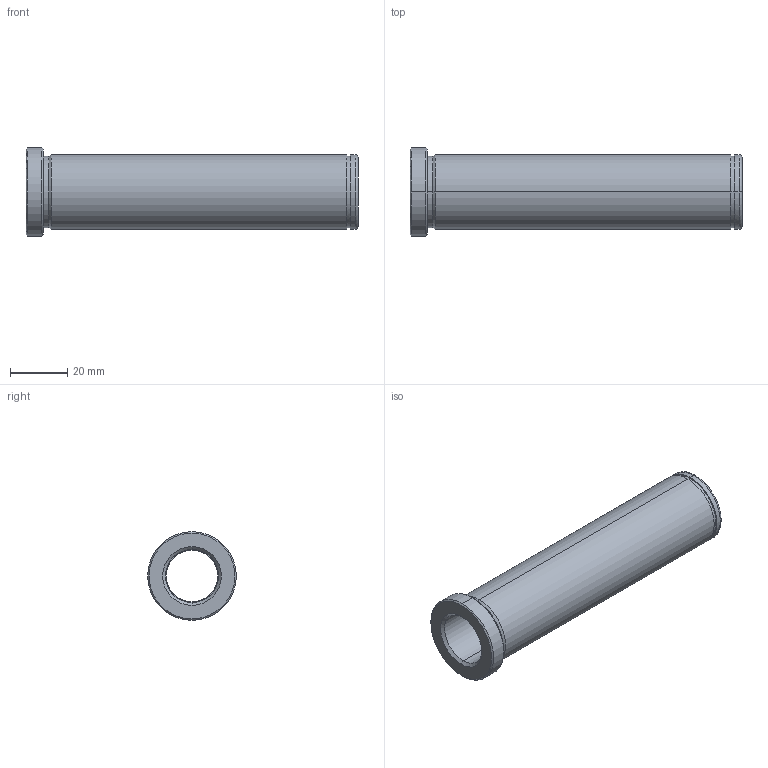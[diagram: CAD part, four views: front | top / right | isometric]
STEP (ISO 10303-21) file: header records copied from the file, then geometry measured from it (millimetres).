
FILE_DESCRIPTION(('CATIA V5 STEP Exchange'),'2;1');
FILE_NAME('C:\Users\Utente\Desktop\IO LAVORO\3D X SITO CF\X SITO\PLASTICA\553\553-18X116.stp','2021-05-23T17:34:10+00:00',('none'),('none'),'CATIA Version 5 Release 20 GA (IN-10)','CATIA V5 STEP AP203','none');
FILE_SCHEMA(('CONFIG_CONTROL_DESIGN'));
Length unit declared in the file: millimetre
Products named in the file (1): 553-18X116
Bounding box: 116 x 31 x 31 mm (x, y, z)
Volume: 32302.9 mm3; surface area: 17181.6 mm2
Topology: 1 solids, 1 shells, 32 faces, 102 edges, 76 vertices
Faces by surface type: cylinder 14, cone 8, plane 6, torus 4
Entity records: 1334 total; most frequent: CARTESIAN_POINT 389, ORIENTED_EDGE 204, DIRECTION 152, EDGE_CURVE 102, AXIS2_PLACEMENT_3D 99, VERTEX_POINT 76, CIRCLE 66, EDGE_LOOP 38
